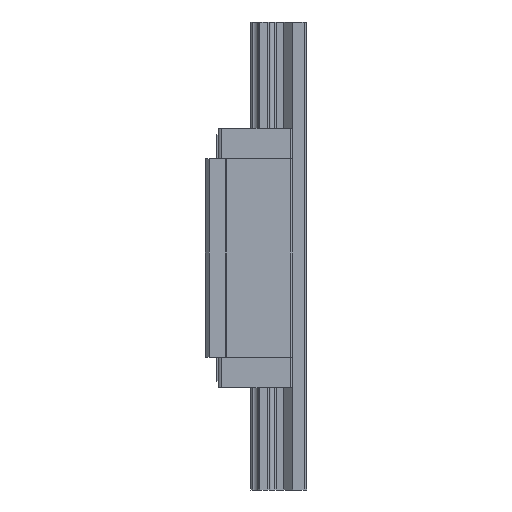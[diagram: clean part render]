
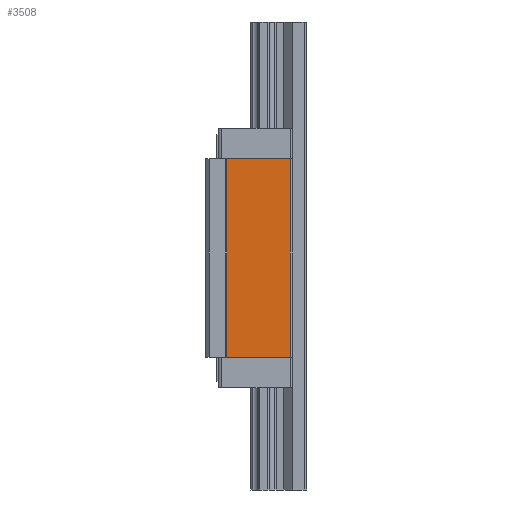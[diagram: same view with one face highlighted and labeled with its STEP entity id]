
A CAD part, left-side view. The second image highlights one B-rep face of the part: STEP entity #3508.
In plain terms, the highlighted planar face has unit normal (-1, 0, 0).
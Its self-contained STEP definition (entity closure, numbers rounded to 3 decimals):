
#83 = LINE ( 'NONE', #2913, #6445 ) ;
#418 = DIRECTION ( 'NONE',  ( 0., 1., 0. ) ) ;
#436 = VERTEX_POINT ( 'NONE', #9321 ) ;
#549 = CARTESIAN_POINT ( 'NONE',  ( -23.5, 6.5, -39.3 ) ) ;
#563 = ORIENTED_EDGE ( 'NONE', *, *, #676, .T. ) ;
#676 = EDGE_CURVE ( 'NONE', #5034, #1496, #3477, .T. ) ;
#822 = VECTOR ( 'NONE', #4511, 1000. ) ;
#1046 = VECTOR ( 'NONE', #5916, 1000. ) ;
#1096 = VERTEX_POINT ( 'NONE', #6288 ) ;
#1237 = EDGE_CURVE ( 'NONE', #436, #1496, #1436, .T. ) ;
#1436 = LINE ( 'NONE', #10613, #1046 ) ;
#1473 = DIRECTION ( 'NONE',  ( 0., 0., 1. ) ) ;
#1489 = EDGE_CURVE ( 'NONE', #5034, #1096, #10715, .T. ) ;
#1496 = VERTEX_POINT ( 'NONE', #549 ) ;
#2321 = DIRECTION ( 'NONE',  ( 1., 0., 0. ) ) ;
#2913 = CARTESIAN_POINT ( 'NONE',  ( -23.5, 0., 39.3 ) ) ;
#3145 = ORIENTED_EDGE ( 'NONE', *, *, #6073, .F. ) ;
#3316 = CARTESIAN_POINT ( 'NONE',  ( -23.5, 31.5, -48.8 ) ) ;
#3356 = ORIENTED_EDGE ( 'NONE', *, *, #1489, .F. ) ;
#3477 = LINE ( 'NONE', #7235, #822 ) ;
#3508 = ADVANCED_FACE ( 'NONE', ( #7609 ), #9560, .F. ) ;
#4511 = DIRECTION ( 'NONE',  ( 0., -1., 0. ) ) ;
#5034 = VERTEX_POINT ( 'NONE', #8639 ) ;
#5744 = ORIENTED_EDGE ( 'NONE', *, *, #1237, .F. ) ;
#5916 = DIRECTION ( 'NONE',  ( 0., 0., -1. ) ) ;
#6073 = EDGE_CURVE ( 'NONE', #1096, #436, #83, .T. ) ;
#6233 = CARTESIAN_POINT ( 'NONE',  ( -23.5, 5.5, -48.8 ) ) ;
#6288 = CARTESIAN_POINT ( 'NONE',  ( -23.5, 31.5, 39.3 ) ) ;
#6445 = VECTOR ( 'NONE', #8544, 1000. ) ;
#7235 = CARTESIAN_POINT ( 'NONE',  ( -23.5, 0., -39.3 ) ) ;
#7609 = FACE_OUTER_BOUND ( 'NONE', #12098, .T. ) ;
#8178 = VECTOR ( 'NONE', #1473, 1000. ) ;
#8544 = DIRECTION ( 'NONE',  ( 0., -1., 0. ) ) ;
#8639 = CARTESIAN_POINT ( 'NONE',  ( -23.5, 31.5, -39.3 ) ) ;
#9321 = CARTESIAN_POINT ( 'NONE',  ( -23.5, 6.5, 39.3 ) ) ;
#9560 = PLANE ( 'NONE',  #10619 ) ;
#10613 = CARTESIAN_POINT ( 'NONE',  ( -23.5, 6.5, -48.8 ) ) ;
#10619 = AXIS2_PLACEMENT_3D ( 'NONE', #6233, #2321, #418 ) ;
#10715 = LINE ( 'NONE', #3316, #8178 ) ;
#12098 = EDGE_LOOP ( 'NONE', ( #563, #5744, #3145, #3356 ) ) ;
